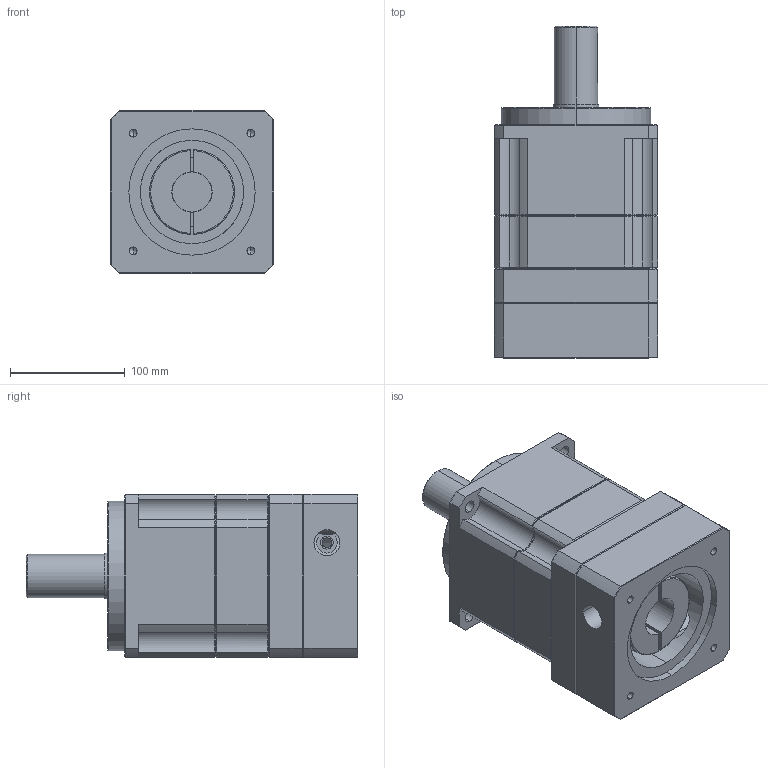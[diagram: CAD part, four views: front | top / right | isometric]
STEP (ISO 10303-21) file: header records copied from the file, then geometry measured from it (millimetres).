
FILE_DESCRIPTION (( 'STEP AP203' ), '1' );
FILE_NAME ('MF150H-L2£r110PCD£r145M8.STEP', '2014-04-22T08:51:24', ( 'KELLY' ), ( '' ), 'SwSTEP 2.0', 'SolidWorks 2012', '' );
FILE_SCHEMA (( 'CONFIG_CONTROL_DESIGN' ));
Length unit declared in the file: millimetre
Products named in the file (1): MF150H-L2｣r110PCD｣r145M8
Bounding box: 142 x 289 x 142 mm (x, y, z)
Volume: 3724671.3 mm3; surface area: 291803.8 mm2
Topology: 3 solids, 3 shells, 265 faces, 631 edges, 377 vertices
Faces by surface type: cylinder 99, plane 84, cone 76, torus 6
Entity records: 8337 total; most frequent: CARTESIAN_POINT 2183, DIRECTION 1303, ORIENTED_EDGE 1242, EDGE_CURVE 621, AXIS2_PLACEMENT_3D 528, VERTEX_POINT 377, EDGE_LOOP 300, ADVANCED_FACE 265
